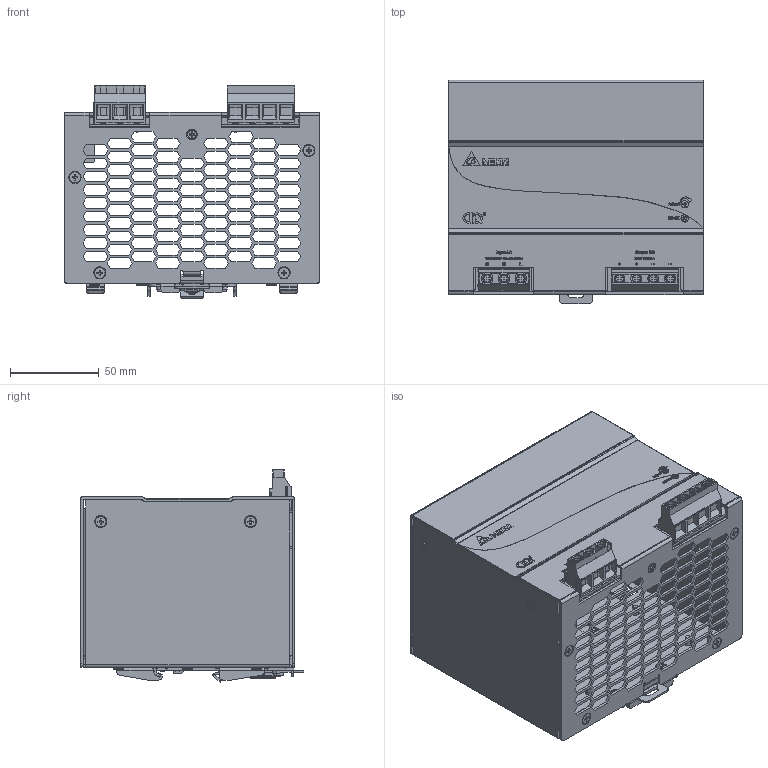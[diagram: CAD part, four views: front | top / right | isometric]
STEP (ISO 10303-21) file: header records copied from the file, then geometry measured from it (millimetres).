
FILE_DESCRIPTION((''),'2;1');
FILE_NAME('DRP024V480W1BA_ASM','2012-04-23T',('Manop.Pr'),(''),'PRO/ENGINEER BY PARAMETRIC TECHNOLOGY CORPORATION, 2010180','PRO/ENGINEER BY PARAMETRIC TECHNOLOGY CORPORATION, 2010180','');
FILE_SCHEMA(('CONFIG_CONTROL_DESIGN','SHAPE_APPEARANCE_LAYERS_GROUPS'));
Products named in the file (27): 330309110101; 330309120000; 326255650202; 3268209100; 3202315200; MAINBOARD; 0604101305_VR550; 3461420800_STAND_OFF_M3; ASSY_PWB_MAIN_ASM; 2968123403_DCT-1234; ASSY_DCT-1234_ASM; 2968123203_DCT-1232; 3076698046; 3076698146; 3350141900_RIVET; 3462552602_BUS_SPCC; EE_LED350; ASSY_DCT-1232_ASM; 3461303000; 3460088100; 3462026200; ASSY_LATCH_50X100_ASM; 3100000600; 3103000600; 3105039100; 3105472900; DRP024V480W1BA_ASM
Assembly tree (58 placements, depth 3):
  DRP024V480W1BA_ASM
    330309110101
    330309120000
    326255650202
    3268209100
    3202315200
    ASSY_PWB_MAIN_ASM
      MAINBOARD
      0604101305_VR550
      3461420800_STAND_OFF_M3  x3
    ASSY_DCT-1234_ASM
      2968123403_DCT-1234
      3461420800_STAND_OFF_M3  x2
    ASSY_DCT-1232_ASM
      2968123203_DCT-1232
      3076698046
      3076698146
      3350141900_RIVET  x7
      3462552602_BUS_SPCC  x2
      EE_LED350
    ASSY_LATCH_50X100_ASM
      3461303000
      3460088100
      3462026200
    3100000600  x9
    3103000600  x8
    3105039100  x6
    3105472900  x2
Bounding box: 144.1 x 126 x 119.74 mm (x, y, z)
Volume: 189048.6 mm3; surface area: 297082.8 mm2
Topology: 56 solids, 56 shells, 5986 faces, 15341 edges, 9575 vertices
Faces by surface type: plane 4011, cylinder 822, extrusion 479, cone 300, bspline 244, torus 128, sphere 2
Entity records: 197433 total; most frequent: CARTESIAN_POINT 37435, ORIENTED_EDGE 25450, DIRECTION 22374, PRESENTATION_STYLE_ASSIGNMENT 12885, EDGE_CURVE 12725, STYLED_ITEM 12713, CURVE_STYLE 12637, VECTOR 10564
